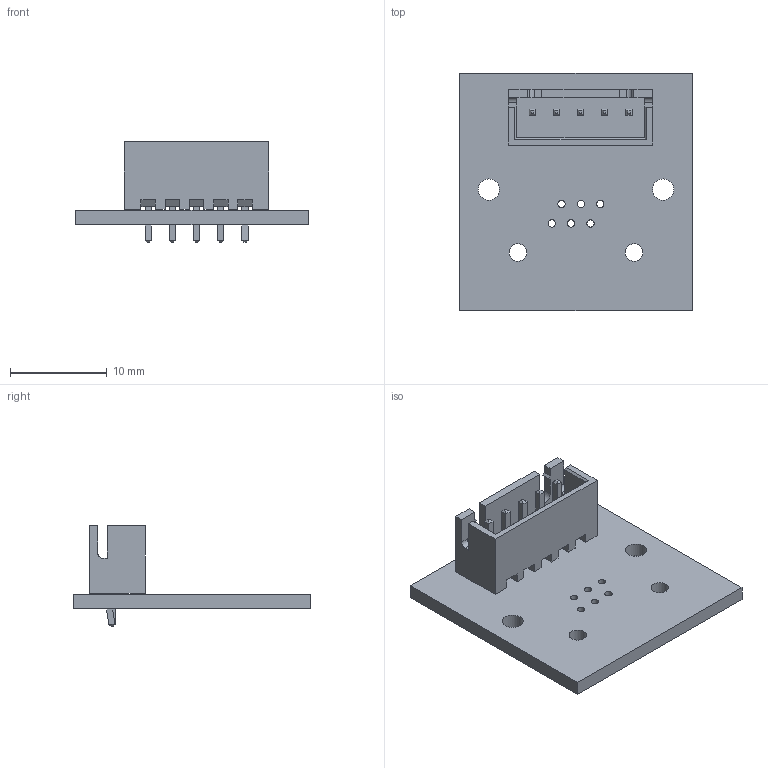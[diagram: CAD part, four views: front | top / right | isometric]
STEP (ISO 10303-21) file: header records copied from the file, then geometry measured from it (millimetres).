
FILE_DESCRIPTION(('KiCad electronic assembly'),'2;1');
FILE_NAME('connect1.step','2026-03-01T14:14:13',('Pcbnew'),('Kicad'), 'Open CASCADE STEP processor 7.9','KiCad to STEP converter','Unknown' );
FILE_SCHEMA(('AUTOMOTIVE_DESIGN { 1 0 10303 214 1 1 1 1 }'));
Length unit declared in the file: millimetre
Products named in the file (3): connect1 1; JST_XH_B5B-XH-A_1x05_P2.50mm_Vertical; connect1_PCB
Assembly tree (2 placements, depth 2):
  connect1 1
    JST_XH_B5B-XH-A_1x05_P2.50mm_Vertical
    connect1_PCB
Bounding box: 24 x 24.5 x 10.4 mm (x, y, z)
Volume: 1152.5 mm3; surface area: 2115.7 mm2
Topology: 2 solids, 2 shells, 186 faces, 482 edges, 310 vertices
Faces by surface type: plane 167, cylinder 19
Full cylindrical faces by diameter (mm): 0.76 x6, 0.95 x5, 1.8 x2, 2.2 x2
Entity records: 6823 total; most frequent: CARTESIAN_POINT 981, ORIENTED_EDGE 964, DIRECTION 898, EDGE_CURVE 482, LINE 444, VECTOR 444, VERTEX_POINT 310, AXIS2_PLACEMENT_3D 227
